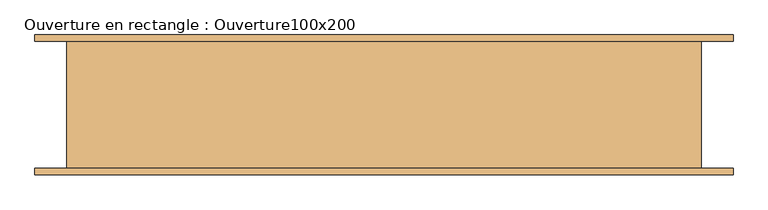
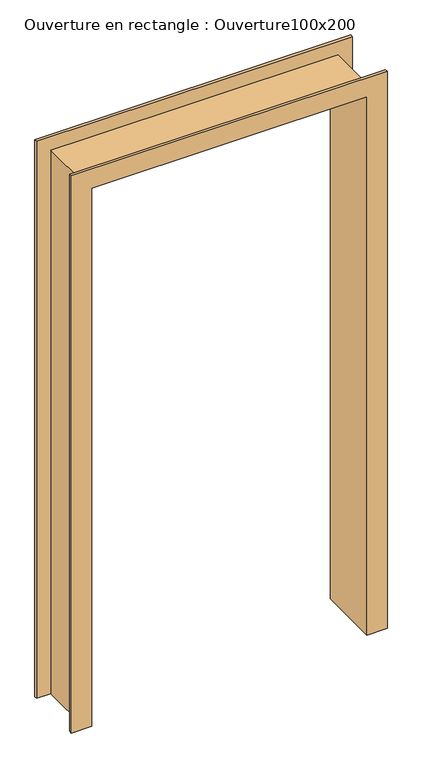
"""IFC4 building model written with IfcOpenShell, lengths in millimetres: door geometry, Ouverture en rectangle : Ouverture100x200."""

from ifc_helpers import new_model, si_unit, origin, place, context, project, spatial, faceted_brep, source, transform, mapped, element, save


def ouverture_en_rectangle_ouverture100x200_505217bf(model_context):
    return source(origin(), model_context, "Body", "Brep", [
        faceted_brep([(-500.0, 100.0, 0.0), (-550.0, 100.0, 0.0), (-550.0, 110.0, 0.0), (-480.0, 110.0, 0.0), (-480.0, -110.0, 0.0), (-550.0, -110.0, 0.0), (-550.0, -100.0, 0.0), (-500.0, -100.0, 0.0), (-500.0, -100.0, 2000.0), (-500.0, 100.0, 2000.0), (-550.0, -100.0, 2050.0), (550.0, -100.0, 2050.0), (550.0, -100.0, 0.0), (500.0, -100.0, 0.0), (500.0, -100.0, 2000.0), (-550.0, -110.0, 2050.0), (-480.0, -110.0, 1980.0), (480.0, -110.0, 1980.0), (480.0, -110.0, 0.0), (550.0, -110.0, 0.0), (550.0, -110.0, 2050.0), (-480.0, 110.0, 1980.0), (-550.0, 110.0, 2050.0), (550.0, 110.0, 2050.0), (550.0, 110.0, 0.0), (480.0, 110.0, 0.0), (480.0, 110.0, 1980.0), (-550.0, 100.0, 2050.0), (500.0, 100.0, 2000.0), (500.0, 100.0, 0.0), (550.0, 100.0, 0.0), (550.0, 100.0, 2050.0)], [[[0, 1, 2, 3, 4, 5, 6, 7]], [[7, 8, 9, 0]], [[6, 10, 11, 12, 13, 14, 8, 7]], [[5, 15, 10, 6]], [[4, 16, 17, 18, 19, 20, 15, 5]], [[3, 21, 16, 4]], [[2, 22, 23, 24, 25, 26, 21, 3]], [[1, 27, 22, 2]], [[0, 9, 28, 29, 30, 31, 27, 1]], [[14, 13, 29, 28]], [[29, 13, 12, 19, 18, 25, 24, 30]], [[20, 19, 12, 11]], [[26, 25, 18, 17]], [[31, 30, 24, 23]], [[8, 14, 28, 9]], [[15, 20, 11, 10]], [[21, 26, 17, 16]], [[27, 31, 23, 22]]]),
    ])


if __name__ == "__main__":
    model = new_model("IFC4")
    model_context = context("Model", 3, world=origin())
    ifc_project = project(units=[si_unit("LENGTHUNIT", "METRE", prefix="MILLI")], contexts=[model_context])
    site = spatial("IfcSite", under=ifc_project)
    building = spatial("IfcBuilding", under=site)
    placement = place(None, origin())
    ouverture_en_rectangle_ouverture100x200_shape = ouverture_en_rectangle_ouverture100x200_505217bf(model_context)
    element("IfcDoor", 1, ObjectType="Ouverture en rectangle : Ouverture100x200", at=placement, inside=building, context=model_context, shape_type="MappedRepresentation", body=[
        mapped(ouverture_en_rectangle_ouverture100x200_shape, transform((0.0, 0.0, 0.0), x_axis=(1.0, 0.0, 0.0), y_axis=(0.0, 1.0, 0.0), z_axis=(0.0, 0.0, 1.0))),
    ])
    save(model, "model.ifc")
